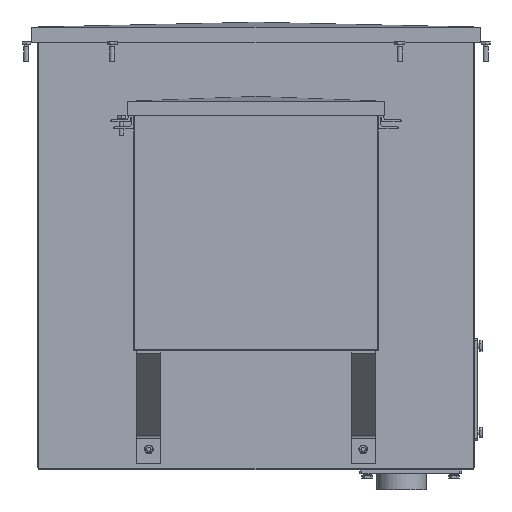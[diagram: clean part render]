
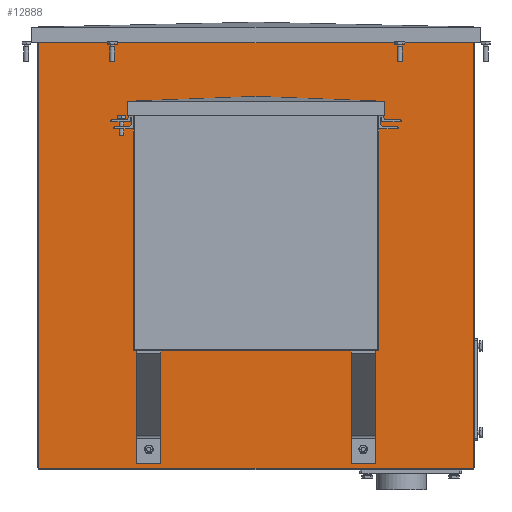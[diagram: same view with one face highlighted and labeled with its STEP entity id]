
A CAD part, left-side view. The second image highlights one B-rep face of the part: STEP entity #12888.
In plain terms, the highlighted planar face has unit normal (-1, 0, 0).
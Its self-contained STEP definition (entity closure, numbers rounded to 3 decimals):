
#677=LINE('',#19168,#1531);
#684=LINE('',#19186,#1538);
#686=LINE('',#19190,#1540);
#687=LINE('',#19192,#1541);
#721=LINE('',#19355,#1575);
#728=LINE('',#19373,#1582);
#730=LINE('',#19377,#1584);
#731=LINE('',#19379,#1585);
#732=LINE('',#19383,#1586);
#736=LINE('',#19392,#1590);
#740=LINE('',#19400,#1594);
#745=LINE('',#19409,#1599);
#746=LINE('',#19412,#1600);
#752=LINE('',#19422,#1606);
#753=LINE('',#19425,#1607);
#755=LINE('',#19428,#1609);
#841=LINE('',#20260,#1695);
#845=LINE('',#20268,#1699);
#846=LINE('',#20270,#1700);
#847=LINE('',#20271,#1701);
#1531=VECTOR('',#15451,52.79);
#1538=VECTOR('',#15472,50.);
#1540=VECTOR('',#15476,52.79);
#1541=VECTOR('',#15479,50.);
#1575=VECTOR('',#15611,52.79);
#1582=VECTOR('',#15632,50.);
#1584=VECTOR('',#15636,52.79);
#1585=VECTOR('',#15639,50.);
#1586=VECTOR('',#15642,478.);
#1590=VECTOR('',#15648,402.);
#1594=VECTOR('',#15654,332.);
#1599=VECTOR('',#15661,332.);
#1600=VECTOR('',#15664,370.);
#1606=VECTOR('',#15674,38.);
#1607=VECTOR('',#15677,370.);
#1609=VECTOR('',#15681,38.);
#1695=VECTOR('',#16339,874.297);
#1699=VECTOR('',#16345,891.);
#1700=VECTOR('',#16346,874.297);
#1701=VECTOR('',#16347,891.);
#3266=PLANE('',#14001);
#3665=FACE_BOUND('',#5181,.T.);
#3666=FACE_BOUND('',#5182,.T.);
#3667=FACE_BOUND('',#5183,.T.);
#4214=FACE_OUTER_BOUND('',#5180,.T.);
#5180=EDGE_LOOP('',(#10506,#10507,#10508,#10509));
#5181=EDGE_LOOP('',(#10510,#10511,#10512,#10513));
#5182=EDGE_LOOP('',(#10514,#10515,#10516,#10517));
#5183=EDGE_LOOP('',(#10518,#10519,#10520,#10521,#10522,#10523,#10524,#10525));
#6458=VERTEX_POINT('',#19165);
#6459=VERTEX_POINT('',#19167);
#6463=VERTEX_POINT('',#19184);
#6464=VERTEX_POINT('',#19188);
#6507=VERTEX_POINT('',#19352);
#6508=VERTEX_POINT('',#19354);
#6512=VERTEX_POINT('',#19371);
#6513=VERTEX_POINT('',#19375);
#6514=VERTEX_POINT('',#19381);
#6515=VERTEX_POINT('',#19382);
#6518=VERTEX_POINT('',#19390);
#6519=VERTEX_POINT('',#19391);
#6522=VERTEX_POINT('',#19399);
#6525=VERTEX_POINT('',#19407);
#6526=VERTEX_POINT('',#19411);
#6529=VERTEX_POINT('',#19424);
#6735=VERTEX_POINT('',#20256);
#6737=VERTEX_POINT('',#20259);
#6740=VERTEX_POINT('',#20267);
#6741=VERTEX_POINT('',#20269);
#7693=EDGE_CURVE('',#6459,#6458,#677,.T.);
#7703=EDGE_CURVE('',#6458,#6463,#684,.T.);
#7705=EDGE_CURVE('',#6463,#6464,#686,.T.);
#7706=EDGE_CURVE('',#6464,#6459,#687,.T.);
#7770=EDGE_CURVE('',#6508,#6507,#721,.T.);
#7780=EDGE_CURVE('',#6507,#6512,#728,.T.);
#7782=EDGE_CURVE('',#6512,#6513,#730,.T.);
#7783=EDGE_CURVE('',#6513,#6508,#731,.T.);
#7784=EDGE_CURVE('',#6514,#6515,#732,.T.);
#7788=EDGE_CURVE('',#6518,#6519,#736,.T.);
#7792=EDGE_CURVE('',#6522,#6518,#740,.T.);
#7797=EDGE_CURVE('',#6519,#6525,#745,.T.);
#7798=EDGE_CURVE('',#6515,#6526,#746,.T.);
#7804=EDGE_CURVE('',#6526,#6522,#752,.T.);
#7805=EDGE_CURVE('',#6529,#6514,#753,.T.);
#7807=EDGE_CURVE('',#6525,#6529,#755,.T.);
#8098=EDGE_CURVE('',#6737,#6735,#841,.T.);
#8102=EDGE_CURVE('',#6740,#6735,#845,.T.);
#8103=EDGE_CURVE('',#6740,#6741,#846,.T.);
#8104=EDGE_CURVE('',#6741,#6737,#847,.T.);
#10506=ORIENTED_EDGE('',*,*,#8102,.F.);
#10507=ORIENTED_EDGE('',*,*,#8103,.T.);
#10508=ORIENTED_EDGE('',*,*,#8104,.T.);
#10509=ORIENTED_EDGE('',*,*,#8098,.T.);
#10510=ORIENTED_EDGE('',*,*,#7693,.T.);
#10511=ORIENTED_EDGE('',*,*,#7703,.T.);
#10512=ORIENTED_EDGE('',*,*,#7705,.T.);
#10513=ORIENTED_EDGE('',*,*,#7706,.T.);
#10514=ORIENTED_EDGE('',*,*,#7770,.T.);
#10515=ORIENTED_EDGE('',*,*,#7780,.T.);
#10516=ORIENTED_EDGE('',*,*,#7782,.T.);
#10517=ORIENTED_EDGE('',*,*,#7783,.T.);
#10518=ORIENTED_EDGE('',*,*,#7798,.T.);
#10519=ORIENTED_EDGE('',*,*,#7804,.T.);
#10520=ORIENTED_EDGE('',*,*,#7792,.T.);
#10521=ORIENTED_EDGE('',*,*,#7788,.T.);
#10522=ORIENTED_EDGE('',*,*,#7797,.T.);
#10523=ORIENTED_EDGE('',*,*,#7807,.T.);
#10524=ORIENTED_EDGE('',*,*,#7805,.T.);
#10525=ORIENTED_EDGE('',*,*,#7784,.T.);
#12888=ADVANCED_FACE('',(#4214,#3665,#3666,#3667),#3266,.F.);
#14001=AXIS2_PLACEMENT_3D('',#20266,#16343,#16344);
#15451=DIRECTION('',(0.,0.,1.));
#15472=DIRECTION('',(0.,-1.,0.));
#15476=DIRECTION('',(0.,0.,-1.));
#15479=DIRECTION('',(0.,1.,0.));
#15611=DIRECTION('',(0.,0.,1.));
#15632=DIRECTION('',(0.,-1.,0.));
#15636=DIRECTION('',(0.,0.,-1.));
#15639=DIRECTION('',(0.,1.,0.));
#15642=DIRECTION('',(0.,1.,0.));
#15648=DIRECTION('',(0.,-1.,0.));
#15654=DIRECTION('',(0.,0.,-1.));
#15661=DIRECTION('',(0.,0.,1.));
#15664=DIRECTION('',(0.,0.,1.));
#15674=DIRECTION('',(0.,-1.,0.));
#15677=DIRECTION('',(0.,0.,-1.));
#15681=DIRECTION('',(0.,-1.,0.));
#16339=DIRECTION('',(0.,0.,1.));
#16343=DIRECTION('center_axis',(1.,0.,0.));
#16344=DIRECTION('ref_axis',(0.,1.,0.));
#16345=DIRECTION('',(0.,-1.,0.));
#16346=DIRECTION('',(0.,0.,-1.));
#16347=DIRECTION('',(0.,-1.,0.));
#19165=CARTESIAN_POINT('',(301.605,73.304,-579.021));
#19167=CARTESIAN_POINT('',(301.605,73.304,-631.81));
#19168=CARTESIAN_POINT('',(301.605,73.304,-411.56));
#19184=CARTESIAN_POINT('',(301.605,23.304,-579.021));
#19186=CARTESIAN_POINT('',(301.605,48.304,-579.021));
#19188=CARTESIAN_POINT('',(301.605,23.304,-631.81));
#19190=CARTESIAN_POINT('',(301.605,23.304,-381.56));
#19192=CARTESIAN_POINT('',(301.605,145.804,-631.81));
#19352=CARTESIAN_POINT('',(301.605,513.304,-579.021));
#19354=CARTESIAN_POINT('',(301.605,513.304,-631.81));
#19355=CARTESIAN_POINT('',(301.605,513.304,-411.56));
#19371=CARTESIAN_POINT('',(301.605,463.304,-579.021));
#19373=CARTESIAN_POINT('',(301.605,488.304,-579.021));
#19375=CARTESIAN_POINT('',(301.605,463.304,-631.81));
#19377=CARTESIAN_POINT('',(301.605,463.304,-381.56));
#19379=CARTESIAN_POINT('',(301.605,365.804,-631.81));
#19381=CARTESIAN_POINT('',(301.605,29.304,-387.81));
#19382=CARTESIAN_POINT('',(301.605,507.304,-387.81));
#19383=CARTESIAN_POINT('',(301.605,148.804,-387.81));
#19390=CARTESIAN_POINT('',(301.605,469.304,-349.81));
#19391=CARTESIAN_POINT('',(301.605,67.304,-349.81));
#19392=CARTESIAN_POINT('',(301.605,368.804,-349.81));
#19399=CARTESIAN_POINT('',(301.605,469.304,-17.81));
#19400=CARTESIAN_POINT('',(301.605,469.304,-104.56));
#19407=CARTESIAN_POINT('',(301.605,67.304,-17.81));
#19409=CARTESIAN_POINT('',(301.605,67.304,-275.56));
#19411=CARTESIAN_POINT('',(301.605,507.304,-17.81));
#19412=CARTESIAN_POINT('',(301.605,507.304,-289.56));
#19422=CARTESIAN_POINT('',(301.605,387.804,-17.81));
#19424=CARTESIAN_POINT('',(301.605,29.304,-17.81));
#19425=CARTESIAN_POINT('',(301.605,29.304,-275.56));
#19428=CARTESIAN_POINT('',(301.605,167.804,-17.81));
#20256=CARTESIAN_POINT('',(301.605,-177.196,232.487));
#20259=CARTESIAN_POINT('',(301.605,-177.196,-641.81));
#20260=CARTESIAN_POINT('',(301.605,-177.196,-636.81));
#20266=CARTESIAN_POINT('Origin',(301.605,268.304,-191.31));
#20267=CARTESIAN_POINT('',(301.605,713.804,232.487));
#20268=CARTESIAN_POINT('',(301.605,268.304,232.487));
#20269=CARTESIAN_POINT('',(301.605,713.804,-641.81));
#20270=CARTESIAN_POINT('',(301.605,713.804,254.19));
#20271=CARTESIAN_POINT('',(301.605,713.804,-641.81));
